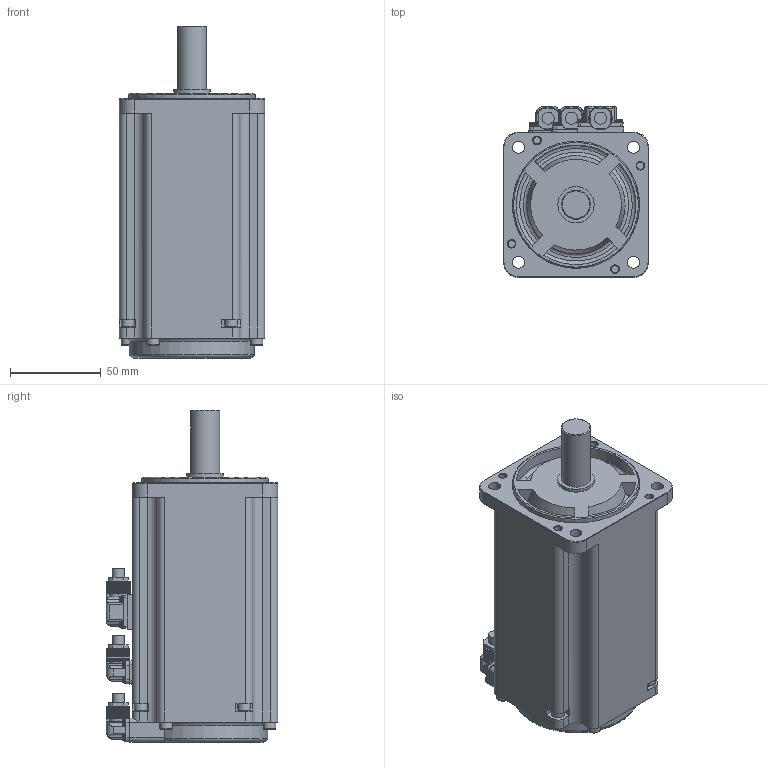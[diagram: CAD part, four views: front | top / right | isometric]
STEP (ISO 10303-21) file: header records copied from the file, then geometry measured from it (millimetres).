
FILE_DESCRIPTION((''),'2;1');
FILE_NAME('J:\_個人バックアップ\1790-保屋野\3D(R2AA08075FCP00)\R2AA08075FCH00M.stp','2013-07-08T10:49:30',('HOYANO-CHIEKO'),(''),'Autodesk Inventor 2011','Autodesk Inventor 2011','');
FILE_SCHEMA(('AUTOMOTIVE_DESIGN { 1 0 10303 214 1 1 1 1 }'));
Length unit declared in the file: millimetre
Products named in the file (1): Part184
Bounding box: 80 x 94.4 x 183 mm (x, y, z)
Volume: 814750.1 mm3; surface area: 69937.4 mm2
Topology: 1 solids, 21 shells, 1360 faces, 3547 edges, 2295 vertices
Faces by surface type: plane 1065, cylinder 247, cone 26, torus 22
Full cylindrical faces by diameter (mm): 1 x8, 2 x12, 3.5 x12, 4 x25, 4.4 x12, 4.5 x8, 6.6 x4, 6.7 x3, 7 x8, 16 x1, 20 x1, 70 x1
Entity records: 40838 total; most frequent: CARTESIAN_POINT 8003, ORIENTED_EDGE 6786, DIRECTION 6574, EDGE_CURVE 3393, VECTOR 2432, LINE 2432, VERTEX_POINT 2266, AXIS2_PLACEMENT_3D 2071
